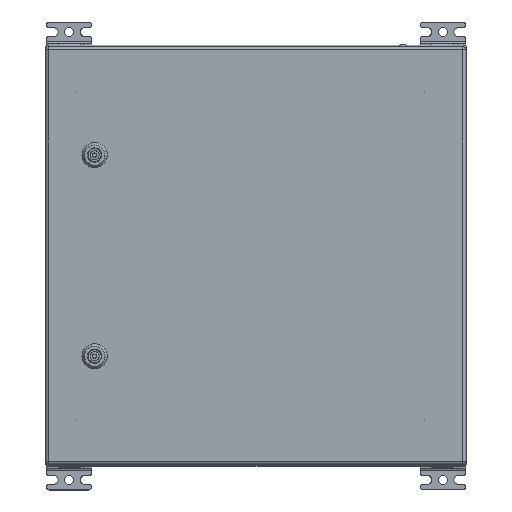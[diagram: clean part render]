
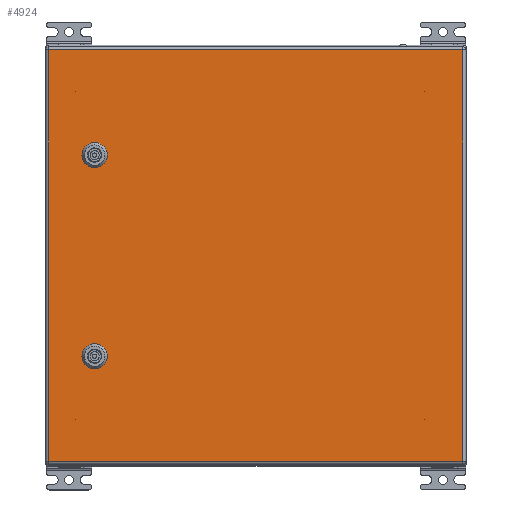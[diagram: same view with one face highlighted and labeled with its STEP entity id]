
A CAD part, top view. The second image highlights one B-rep face of the part: STEP entity #4924.
In plain terms, the highlighted planar face has unit normal (0, 0, 1).
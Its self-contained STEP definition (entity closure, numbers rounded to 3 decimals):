
#4924=ADVANCED_FACE('',(#12599,#12601,#12603),#12605,.T.);
#12599=FACE_BOUND('',#12600,.T.);
#12600=EDGE_LOOP('',(#34791,#34792,#34793,#34794));
#12601=FACE_BOUND('',#12602,.T.);
#12602=EDGE_LOOP('',(#34795,#34796,#34797,#34798,#34799,#34800,#34801,#34802));
#12603=FACE_BOUND('',#12604,.T.);
#12604=EDGE_LOOP('',(#34803,#34804,#34805,#34806,#34807,#34808,#34809,#34810));
#12605=PLANE('',#12606);
#12606=AXIS2_PLACEMENT_3D('',#12607,#12608,#12609);
#12607=CARTESIAN_POINT('',(0.,0.,1.5));
#12608=DIRECTION('',(0.,0.,1.));
#12609=DIRECTION('',(1.,0.,0.));
#34791=ORIENTED_EDGE('',*,*,#38952,.T.);
#34792=ORIENTED_EDGE('',*,*,#38953,.T.);
#34793=ORIENTED_EDGE('',*,*,#38954,.T.);
#34794=ORIENTED_EDGE('',*,*,#38955,.T.);
#34795=ORIENTED_EDGE('',*,*,#38920,.T.);
#34796=ORIENTED_EDGE('',*,*,#38934,.T.);
#34797=ORIENTED_EDGE('',*,*,#38932,.T.);
#34798=ORIENTED_EDGE('',*,*,#38930,.T.);
#34799=ORIENTED_EDGE('',*,*,#38928,.T.);
#34800=ORIENTED_EDGE('',*,*,#38926,.T.);
#34801=ORIENTED_EDGE('',*,*,#38924,.T.);
#34802=ORIENTED_EDGE('',*,*,#38922,.T.);
#34803=ORIENTED_EDGE('',*,*,#38904,.T.);
#34804=ORIENTED_EDGE('',*,*,#38918,.T.);
#34805=ORIENTED_EDGE('',*,*,#38916,.T.);
#34806=ORIENTED_EDGE('',*,*,#38914,.T.);
#34807=ORIENTED_EDGE('',*,*,#38912,.T.);
#34808=ORIENTED_EDGE('',*,*,#38910,.T.);
#34809=ORIENTED_EDGE('',*,*,#38908,.T.);
#34810=ORIENTED_EDGE('',*,*,#38906,.T.);
#38904=EDGE_CURVE('',#42304,#42302,#42305,.T.);
#38906=EDGE_CURVE('',#42307,#42304,#42308,.F.);
#38908=EDGE_CURVE('',#42310,#42307,#42311,.T.);
#38910=EDGE_CURVE('',#42313,#42310,#42314,.F.);
#38912=EDGE_CURVE('',#42316,#42313,#42317,.T.);
#38914=EDGE_CURVE('',#42319,#42316,#42320,.F.);
#38916=EDGE_CURVE('',#42322,#42319,#42323,.T.);
#38918=EDGE_CURVE('',#42302,#42322,#42325,.F.);
#38920=EDGE_CURVE('',#42328,#42326,#42329,.T.);
#38922=EDGE_CURVE('',#42331,#42328,#42332,.F.);
#38924=EDGE_CURVE('',#42334,#42331,#42335,.T.);
#38926=EDGE_CURVE('',#42337,#42334,#42338,.F.);
#38928=EDGE_CURVE('',#42340,#42337,#42341,.T.);
#38930=EDGE_CURVE('',#42343,#42340,#42344,.F.);
#38932=EDGE_CURVE('',#42346,#42343,#42347,.T.);
#38934=EDGE_CURVE('',#42326,#42346,#42349,.F.);
#38952=EDGE_CURVE('',#42376,#42377,#42378,.T.);
#38953=EDGE_CURVE('',#42377,#42379,#42380,.T.);
#38954=EDGE_CURVE('',#42379,#42381,#42382,.T.);
#38955=EDGE_CURVE('',#42381,#42376,#42383,.T.);
#42302=VERTEX_POINT('',#51453);
#42304=VERTEX_POINT('',#51457);
#42305=CIRCLE('',#51458,11.25);
#42307=VERTEX_POINT('',#51465);
#42308=LINE('',#51466,#51467);
#42310=VERTEX_POINT('',#51472);
#42311=CIRCLE('',#51473,11.25);
#42313=VERTEX_POINT('',#51480);
#42314=LINE('',#51481,#51482);
#42316=VERTEX_POINT('',#51487);
#42317=CIRCLE('',#51488,11.25);
#42319=VERTEX_POINT('',#51495);
#42320=LINE('',#51496,#51497);
#42322=VERTEX_POINT('',#51502);
#42323=CIRCLE('',#51503,11.25);
#42325=LINE('',#51510,#51511);
#42326=VERTEX_POINT('',#51513);
#42328=VERTEX_POINT('',#51517);
#42329=CIRCLE('',#51518,11.25);
#42331=VERTEX_POINT('',#51525);
#42332=LINE('',#51526,#51527);
#42334=VERTEX_POINT('',#51532);
#42335=CIRCLE('',#51533,11.25);
#42337=VERTEX_POINT('',#51540);
#42338=LINE('',#51541,#51542);
#42340=VERTEX_POINT('',#51547);
#42341=CIRCLE('',#51548,11.25);
#42343=VERTEX_POINT('',#51555);
#42344=LINE('',#51556,#51557);
#42346=VERTEX_POINT('',#51562);
#42347=CIRCLE('',#51563,11.25);
#42349=LINE('',#51570,#51571);
#42376=VERTEX_POINT('',#51634);
#42377=VERTEX_POINT('',#51635);
#42378=LINE('',#51636,#51637);
#42379=VERTEX_POINT('',#51639);
#42380=LINE('',#51640,#51641);
#42381=VERTEX_POINT('',#51643);
#42382=LINE('',#51644,#51645);
#42383=LINE('',#51647,#51648);
#51453=CARTESIAN_POINT('',(-129.955,-44.4,1.5));
#51457=CARTESIAN_POINT('',(-135.1,-49.545,1.5));
#51458=AXIS2_PLACEMENT_3D('',#51459,#51460,#51461);
#51459=CARTESIAN_POINT('',(-125.,-54.5,1.5));
#51460=DIRECTION('',(0.,0.,-1.));
#51461=DIRECTION('',(-0.898,0.44,0.));
#51465=CARTESIAN_POINT('',(-135.1,-59.455,1.5));
#51466=CARTESIAN_POINT('',(-135.1,-49.545,1.5));
#51467=VECTOR('',#51468,1.);
#51468=DIRECTION('',(0.,-1.,0.));
#51472=CARTESIAN_POINT('',(-129.955,-64.6,1.5));
#51473=AXIS2_PLACEMENT_3D('',#51474,#51475,#51476);
#51474=CARTESIAN_POINT('',(-125.,-54.5,1.5));
#51475=DIRECTION('',(0.,0.,-1.));
#51476=DIRECTION('',(-0.44,-0.898,0.));
#51480=CARTESIAN_POINT('',(-120.045,-64.6,1.5));
#51481=CARTESIAN_POINT('',(-129.955,-64.6,1.5));
#51482=VECTOR('',#51483,1.);
#51483=DIRECTION('',(1.,0.,0.));
#51487=CARTESIAN_POINT('',(-114.9,-59.455,1.5));
#51488=AXIS2_PLACEMENT_3D('',#51489,#51490,#51491);
#51489=CARTESIAN_POINT('',(-125.,-54.5,1.5));
#51490=DIRECTION('',(0.,0.,-1.));
#51491=DIRECTION('',(0.898,-0.44,0.));
#51495=CARTESIAN_POINT('',(-114.9,-49.545,1.5));
#51496=CARTESIAN_POINT('',(-114.9,-59.455,1.5));
#51497=VECTOR('',#51498,1.);
#51498=DIRECTION('',(0.,1.,0.));
#51502=CARTESIAN_POINT('',(-120.045,-44.4,1.5));
#51503=AXIS2_PLACEMENT_3D('',#51504,#51505,#51506);
#51504=CARTESIAN_POINT('',(-125.,-54.5,1.5));
#51505=DIRECTION('',(0.,0.,-1.));
#51506=DIRECTION('',(0.44,0.898,0.));
#51510=CARTESIAN_POINT('',(-120.045,-44.4,1.5));
#51511=VECTOR('',#51512,1.);
#51512=DIRECTION('',(-1.,0.,0.));
#51513=CARTESIAN_POINT('',(-368.955,-44.4,1.5));
#51517=CARTESIAN_POINT('',(-374.1,-49.545,1.5));
#51518=AXIS2_PLACEMENT_3D('',#51519,#51520,#51521);
#51519=CARTESIAN_POINT('',(-364.,-54.5,1.5));
#51520=DIRECTION('',(0.,0.,-1.));
#51521=DIRECTION('',(-0.898,0.44,0.));
#51525=CARTESIAN_POINT('',(-374.1,-59.455,1.5));
#51526=CARTESIAN_POINT('',(-374.1,-49.545,1.5));
#51527=VECTOR('',#51528,1.);
#51528=DIRECTION('',(0.,-1.,0.));
#51532=CARTESIAN_POINT('',(-368.955,-64.6,1.5));
#51533=AXIS2_PLACEMENT_3D('',#51534,#51535,#51536);
#51534=CARTESIAN_POINT('',(-364.,-54.5,1.5));
#51535=DIRECTION('',(0.,0.,-1.));
#51536=DIRECTION('',(-0.44,-0.898,0.));
#51540=CARTESIAN_POINT('',(-359.045,-64.6,1.5));
#51541=CARTESIAN_POINT('',(-368.955,-64.6,1.5));
#51542=VECTOR('',#51543,1.);
#51543=DIRECTION('',(1.,0.,0.));
#51547=CARTESIAN_POINT('',(-353.9,-59.455,1.5));
#51548=AXIS2_PLACEMENT_3D('',#51549,#51550,#51551);
#51549=CARTESIAN_POINT('',(-364.,-54.5,1.5));
#51550=DIRECTION('',(0.,0.,-1.));
#51551=DIRECTION('',(0.898,-0.44,0.));
#51555=CARTESIAN_POINT('',(-353.9,-49.545,1.5));
#51556=CARTESIAN_POINT('',(-353.9,-59.455,1.5));
#51557=VECTOR('',#51558,1.);
#51558=DIRECTION('',(0.,1.,0.));
#51562=CARTESIAN_POINT('',(-359.045,-44.4,1.5));
#51563=AXIS2_PLACEMENT_3D('',#51564,#51565,#51566);
#51564=CARTESIAN_POINT('',(-364.,-54.5,1.5));
#51565=DIRECTION('',(0.,0.,-1.));
#51566=DIRECTION('',(0.44,0.898,0.));
#51570=CARTESIAN_POINT('',(-359.045,-44.4,1.5));
#51571=VECTOR('',#51572,1.);
#51572=DIRECTION('',(-1.,0.,0.));
#51634=CARTESIAN_POINT('',(-489.,0.,1.5));
#51635=CARTESIAN_POINT('',(-489.,-492.,1.5));
#51636=CARTESIAN_POINT('',(-489.,0.,1.5));
#51637=VECTOR('',#51638,1.);
#51638=DIRECTION('',(0.,-1.,0.));
#51639=CARTESIAN_POINT('',(0.,-492.,1.5));
#51640=CARTESIAN_POINT('',(-489.,-492.,1.5));
#51641=VECTOR('',#51642,1.);
#51642=DIRECTION('',(1.,0.,0.));
#51643=CARTESIAN_POINT('',(0.,0.,1.5));
#51644=CARTESIAN_POINT('',(0.,-492.,1.5));
#51645=VECTOR('',#51646,1.);
#51646=DIRECTION('',(0.,1.,0.));
#51647=CARTESIAN_POINT('',(0.,0.,1.5));
#51648=VECTOR('',#51649,1.);
#51649=DIRECTION('',(-1.,0.,0.));
